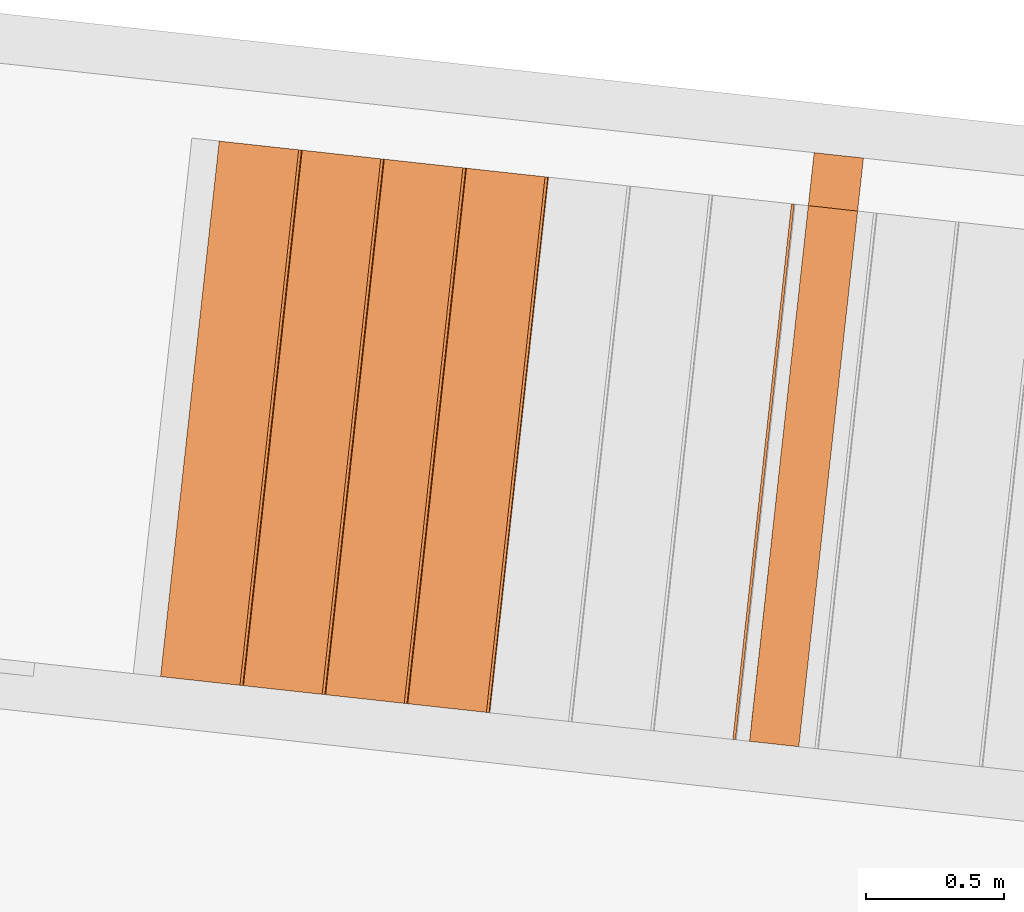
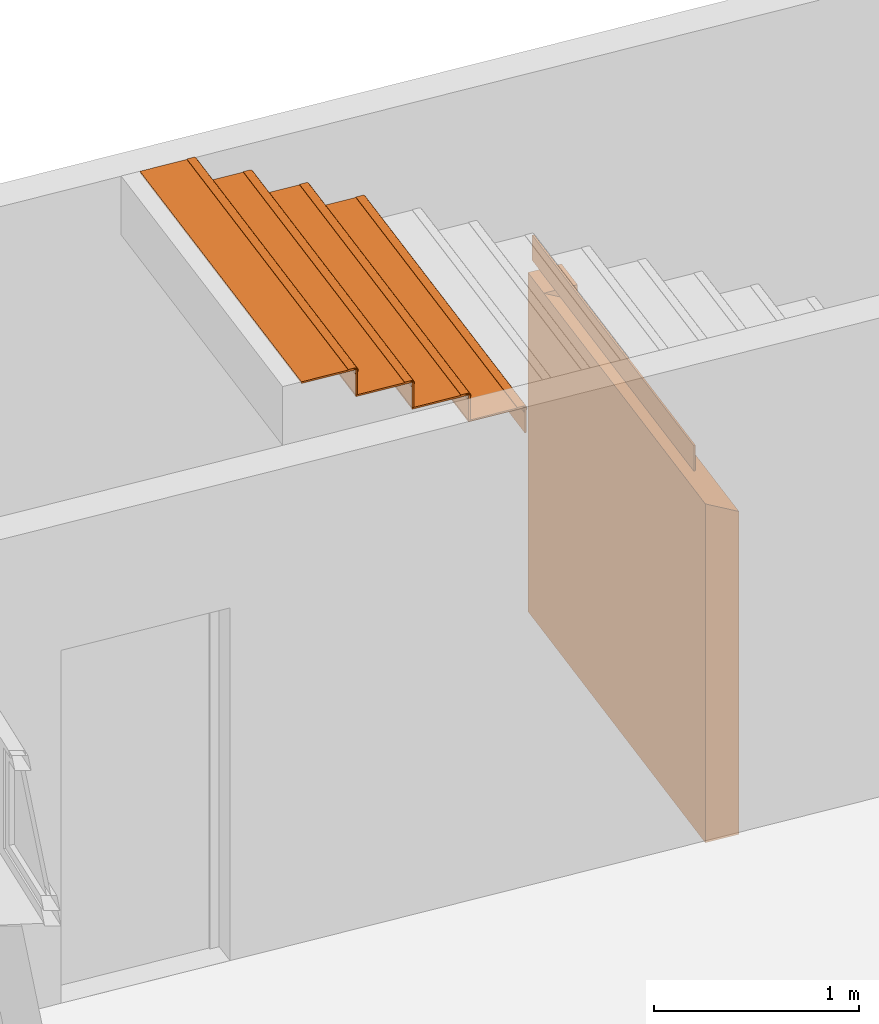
# One storey, part 73 of 79: 10 proxies, 1 element without a shape of its own.
"""IFC2X3 building model written with IfcOpenShell, lengths in metres."""

from ifc_helpers import new_model, entity, si_unit, converted_unit, derived_unit, money_unit, direction, frame, origin_with_axes, place, context, subcontext, project, spatial, faceted_brep, material, type_object, element, aggregate, save


model = new_model("IFC2X3")

# Units and contexts
model_context = context("Model", 3, precision=1e-05, world=origin_with_axes(), true_north=direction((0.0, 1.0)))
body_context = subcontext(model_context, "Body", "Model", "MODEL_VIEW")
ifc_project = project(units=[si_unit("LENGTHUNIT", "METRE"), si_unit("AREAUNIT", "SQUARE_METRE"), si_unit("VOLUMEUNIT", "CUBIC_METRE"), converted_unit("PLANEANGLEUNIT", "DEGREE", entity("IfcPlaneAngleMeasure", 0.0174532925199), si_unit("PLANEANGLEUNIT", "RADIAN"), dimensions=[0, 0, 0, 0, 0, 0, 0]), money_unit("CHF"), converted_unit("TIMEUNIT", "Year", entity("IfcTimeMeasure", 31556926.0), si_unit("TIMEUNIT", "SECOND"), dimensions=[0, 0, 1, 0, 0, 0, 0]), si_unit("MASSUNIT", "GRAM", prefix="KILO"), si_unit("THERMODYNAMICTEMPERATUREUNIT", "DEGREE_CELSIUS"), si_unit("LUMINOUSINTENSITYUNIT", "LUMEN"), si_unit("ENERGYUNIT", "JOULE", prefix="MEGA"), derived_unit("THERMALCONDUCTANCEUNIT", [(si_unit("POWERUNIT", "WATT"), 1), (si_unit("LENGTHUNIT", "METRE"), -1), (si_unit("THERMODYNAMICTEMPERATUREUNIT", "KELVIN"), -1)]), derived_unit("SPECIFICHEATCAPACITYUNIT", [(si_unit("ENERGYUNIT", "JOULE"), 1), (si_unit("MASSUNIT", "GRAM", prefix="KILO"), -1), (si_unit("THERMODYNAMICTEMPERATUREUNIT", "KELVIN"), -1)]), derived_unit("MASSDENSITYUNIT", [(si_unit("MASSUNIT", "GRAM", prefix="KILO"), 1), (si_unit("VOLUMEUNIT", "CUBIC_METRE"), -1)])], contexts=[model_context])

# Site, building, storey
site_placement = place(None, frame((0.0, 0.0, 0.0), z_axis=(0.0, 0.0, 1.0), x_axis=(-0.177771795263, -0.984071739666, 0.0)))
site = spatial("IfcSite", under=ifc_project, at=site_placement, Name="Site", CompositionType="ELEMENT")
building_placement = place(site_placement, origin_with_axes())
building = spatial("IfcBuilding", under=site, at=building_placement, Name="Bâtiment", CompositionType="ELEMENT")
storey_placement = place(building_placement, origin_with_axes())
storey = spatial("IfcBuildingStorey", under=building, at=storey_placement, Name="RDC", CompositionType="ELEMENT", Elevation=0.0)

# Proxy
ifc_material_1 = material(Name="_BA banché RAL9007")
building_element_proxy_type_1 = type_object("IfcBuildingElementProxyType", Name="_BA banché RAL9007 180", PredefinedType="NOTDEFINED")
proxy_1_placement = place(storey_placement, frame((99.9146645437, -154.589558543, -0.15), z_axis=(0.0, 0.0, 1.0), x_axis=(-0.997598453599, -0.0692627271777, 0.0)))
element("IfcBuildingElementProxy", 1, at=proxy_1_placement, inside=storey, type_object=building_element_proxy_type_1, material=ifc_material_1, Name="cloison rangt1", context=body_context, shape_type="Brep", body=[
    faceted_brep([(1.95643791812, 0.18, 2.01721448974), (1.95648810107, 0.0, 2.01721448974), (2.14999342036, 0.0, 2.01721448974), (2.14999318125, 0.18, 2.01721448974), (1.95648812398, 0.0, 1.92107624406), (1.95643793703, 0.18, 2.01707624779), (3.14007174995e-06, 1.96879998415e-10, 1.92136715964), (0.0, 0.0, 0.0), (2.14999342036, 0.0, 0.0), (2.14999318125, 0.18, 0.0), (2.05036998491e-09, 0.18, 0.0), (2.05036998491e-09, 0.18, 2.01721448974), (1.02672355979, 0.18, 2.01721448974), (2.90164562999e-06, 0.179713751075, 2.01721448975)], [[[0, 1, 2, 3]], [[4, 1, 0, 5]], [[6, 7, 8, 2, 1, 4]], [[8, 9, 3, 2]], [[5, 0, 3, 9, 10, 11, 12]], [[6, 4, 5, 12, 13]], [[13, 11, 10, 7, 6]], [[7, 10, 9, 8]], [[13, 12, 11]]]),
])

# Proxies
building_element_proxy_type_2 = type_object("IfcBuildingElementProxyType", Name="Type d'escalier", PredefinedType="NOTDEFINED")
proxy_2_placement = place(storey_placement, origin_with_axes())
proxy_2 = element("IfcBuildingElementProxy", 2, at=proxy_2_placement, inside=storey, type_object=building_element_proxy_type_2, Name="ESC-001")
ifc_material_2 = material(Name="Bois - Massif 01")
building_element_proxy_type_3 = type_object("IfcBuildingElementProxyType", Name="IfcBuildingElementProxy", PredefinedType="NOTDEFINED")
proxy_3_placement = place(proxy_2_placement, frame((98.9325070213, -154.889671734, 2.23), z_axis=(0.0, 0.0, 1.0), x_axis=(0.997579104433, 0.0695408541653, 0.0)))
proxy_3 = element("IfcBuildingElementProxy", 3, at=proxy_3_placement, type_object=building_element_proxy_type_3, material=ifc_material_2, Name="C-MARCHE-014", context=body_context, shape_type="Brep", body=[
    faceted_brep([(1.0005826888, 0.0, 0.0), (-0.955838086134, 0.0, 0.0), (-0.955838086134, -0.01, 0.0), (1.00057991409, -0.01, 0.0), (1.0005826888, 0.0, -0.15), (-0.955838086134, 0.0, -0.15), (-0.955838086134, -0.01, -0.15), (1.00057991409, -0.01, -0.15)], [[[0, 1, 2, 3]], [[4, 5, 1, 0]], [[1, 5, 6, 2]], [[3, 2, 6, 7]], [[0, 3, 7, 4]], [[7, 6, 5, 4]]]),
])
proxy_4_placement = place(proxy_2_placement, frame((98.9950937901, -155.787492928, 2.71), z_axis=(0.0, 0.0, 1.0), x_axis=(0.997579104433, 0.0695408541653, 0.0)))
proxy_4 = element("IfcBuildingElementProxy", 4, at=proxy_4_placement, type_object=building_element_proxy_type_3, material=ifc_material_2, Name="C-MARCHE-017", context=body_context, shape_type="Brep", body=[
    faceted_brep([(1.00033296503, 0.0, 0.0), (-0.955838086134, 0.0, 0.0), (-0.955838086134, -0.00999999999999, 0.0), (1.00033019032, -0.01, 0.0), (1.00033296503, 0.0, -0.15), (-0.955838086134, 0.0, -0.15), (-0.955838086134, -0.00999999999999, -0.15), (1.00033019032, -0.01, -0.15)], [[[0, 1, 2, 3]], [[4, 5, 1, 0]], [[1, 5, 6, 2]], [[3, 2, 6, 7]], [[0, 3, 7, 4]], [[7, 6, 5, 4]]]),
])
proxy_5_placement = place(proxy_2_placement, frame((99.0159560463, -156.08676666, 2.87), z_axis=(0.0, 0.0, 1.0), x_axis=(0.997579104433, 0.0695408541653, 0.0)))
proxy_5 = element("IfcBuildingElementProxy", 5, at=proxy_5_placement, type_object=building_element_proxy_type_3, material=ifc_material_2, Name="C-MARCHE-018", context=body_context, shape_type="Brep", body=[
    faceted_brep([(1.00024972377, 0.0, 0.0), (-0.955838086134, 0.0, 0.0), (-0.955838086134, -0.00999999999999, 0.0), (1.00024694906, -0.01, 0.0), (1.00024972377, 0.0, -0.15), (-0.955838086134, 0.0, -0.15), (-0.955838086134, -0.00999999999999, -0.15), (1.00024694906, -0.01, -0.15)], [[[0, 1, 2, 3]], [[4, 5, 1, 0]], [[1, 5, 6, 2]], [[3, 2, 6, 7]], [[0, 3, 7, 4]], [[7, 6, 5, 4]]]),
])
proxy_6_placement = place(proxy_2_placement, frame((99.0368183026, -156.386040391, 3.03), z_axis=(0.0, 0.0, 1.0), x_axis=(0.997579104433, 0.0695408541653, 0.0)))
proxy_6 = element("IfcBuildingElementProxy", 6, at=proxy_6_placement, type_object=building_element_proxy_type_3, material=ifc_material_2, Name="C-MARCHE-019", context=body_context, shape_type="Brep", body=[
    faceted_brep([(1.00016648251, 0.0, 0.0), (-0.955838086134, 0.0, 0.0), (-0.955838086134, -0.00999999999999, 0.0), (1.00016370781, -0.01, 0.0), (1.00016648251, 0.0, -0.15), (-0.955838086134, 0.0, -0.15), (-0.955838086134, -0.00999999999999, -0.15), (1.00016370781, -0.01, -0.15)], [[[0, 1, 2, 3]], [[4, 5, 1, 0]], [[1, 5, 6, 2]], [[3, 2, 6, 7]], [[0, 3, 7, 4]], [[7, 6, 5, 4]]]),
])
proxy_7_placement = place(proxy_2_placement, frame((99.0576805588, -156.685314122, 3.19), z_axis=(0.0, 0.0, 1.0), x_axis=(0.997579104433, 0.0695408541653, 0.0)))
proxy_7 = element("IfcBuildingElementProxy", 7, at=proxy_7_placement, type_object=building_element_proxy_type_3, material=ifc_material_2, Name="C-MARCHE-020", context=body_context, shape_type="Brep", body=[
    faceted_brep([(1.00008324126, 0.0, 0.0), (-0.955838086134, 0.0, 0.0), (-0.955838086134, -0.00999999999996, 0.0), (1.00008046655, -0.00999999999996, 0.0), (1.00008324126, 0.0, -0.15), (-0.955838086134, 0.0, -0.15), (-0.955838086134, -0.00999999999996, -0.15), (1.00008046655, -0.00999999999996, -0.15)], [[[0, 1, 2, 3]], [[4, 5, 1, 0]], [[1, 5, 6, 2]], [[3, 2, 6, 7]], [[0, 3, 7, 4]], [[7, 6, 5, 4]]]),
])
proxy_8_placement = place(proxy_2_placement, frame((98.9950937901, -155.787492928, 2.72), z_axis=(0.0, 0.0, 1.0), x_axis=(0.997579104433, 0.0695408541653, 0.0)))
proxy_8 = element("IfcBuildingElementProxy", 8, at=proxy_8_placement, type_object=building_element_proxy_type_3, material=ifc_material_2, Name="MARCHE-017", context=body_context, shape_type="Brep", body=[
    faceted_brep([(1.00032954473, -0.012326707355, -0.00589109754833), (1.00032880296, -0.015, -0.00401923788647), (1.00032748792, -0.0197393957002, -0.00180922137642), (1.00032608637, -0.02479055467, -0.00045576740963), (1.0003246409, -0.03, 0.0), (1.00024694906, -0.310000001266, 0.0), (1.00024694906, -0.310000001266, -0.01), (1.00033296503, 0.0, -0.01), (-0.955838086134, -0.012326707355, -0.00589109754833), (-0.955838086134, -0.015, -0.00401923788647), (-0.955838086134, -0.0197393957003, -0.00180922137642), (-0.955838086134, -0.02479055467, -0.00045576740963), (-0.955838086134, -0.03, 0.0), (-0.955838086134, -0.310000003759, 0.0), (-0.955838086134, -0.310000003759, -0.01), (-0.955838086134, 0.0, -0.01)], [[[0, 1, 2, 3, 4, 5, 6, 7]], [[0, 8, 9, 1]], [[1, 9, 10, 2]], [[2, 10, 11, 3]], [[3, 11, 12, 4]], [[5, 4, 12, 13]], [[13, 14, 6, 5]], [[7, 6, 14, 15]], [[7, 15, 8, 0]], [[12, 11, 10, 9, 8, 15, 14, 13]]]),
    faceted_brep([(-0.955838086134, -0.05, 0.0), (1.00033296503, -0.05, 0.0), (1.00033296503, -0.05, 0.003), (-0.955838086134, -0.05, 0.003), (-0.955838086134, -0.015, 0.0), (1.00033296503, -0.015, 0.0), (1.00033296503, -0.012395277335, -0.00022788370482), (1.00033296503, -0.00986969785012, -0.00090461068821), (1.00033296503, -0.00750000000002, -0.00200961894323), (1.00033296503, -0.00535818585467, -0.00350933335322), (1.00033296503, -0.00350933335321, -0.0053581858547), (1.00033296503, -0.00200961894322, -0.0075), (1.00033296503, -0.000904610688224, -0.00986969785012), (1.00033296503, -0.000227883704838, -0.012395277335), (1.00033296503, 0.0, -0.015), (1.00033296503, -0.000227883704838, -0.017604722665), (1.00033296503, -0.000904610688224, -0.0201303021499), (1.00033296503, -0.00200961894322, -0.0225), (1.00033296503, -0.00350933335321, -0.0246418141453), (1.00033296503, -0.00535818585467, -0.0264906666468), (1.00033296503, -0.00750000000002, -0.0279903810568), (1.00033296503, -0.00986969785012, -0.0290953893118), (1.00033296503, -0.012395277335, -0.0297721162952), (1.00033296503, -0.015, -0.03), (1.00033296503, -0.015, -0.033), (1.00033296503, -0.011874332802, -0.0327265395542), (1.00033296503, -0.00884363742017, -0.0319144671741), (1.00033296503, -0.006, -0.0305884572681), (1.00033296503, -0.00342982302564, -0.0287887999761), (1.00033296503, -0.00121120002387, -0.0265701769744), (1.00033296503, 0.000588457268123, -0.024), (1.00033296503, 0.00191446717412, -0.0211563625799), (1.00033296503, 0.00272653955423, -0.018125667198), (1.00033296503, 0.00299999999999, -0.015), (1.00033296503, 0.00272653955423, -0.011874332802), (1.00033296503, 0.00191446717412, -0.00884363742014), (1.00033296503, 0.000588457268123, -0.006), (1.00033296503, -0.00121120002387, -0.00342982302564), (1.00033296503, -0.00342982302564, -0.00121120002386), (1.00033296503, -0.006, 0.00058845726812), (1.00033296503, -0.00884363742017, 0.00191446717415), (1.00033296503, -0.011874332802, 0.00272653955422), (1.00033296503, -0.015, 0.003), (-0.955838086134, -0.015, 0.003), (-0.955838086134, -0.011874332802, 0.00272653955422), (-0.955838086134, -0.00884363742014, 0.00191446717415), (-0.955838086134, -0.00600000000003, 0.00058845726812), (-0.955838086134, -0.00342982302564, -0.00121120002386), (-0.955838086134, -0.00121120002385, -0.00342982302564), (-0.955838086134, 0.000588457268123, -0.006), (-0.955838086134, 0.00191446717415, -0.00884363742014), (-0.955838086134, 0.00272653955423, -0.011874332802), (-0.955838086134, 0.00300000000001, -0.015), (-0.955838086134, 0.00272653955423, -0.018125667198), (-0.955838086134, 0.00191446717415, -0.0211563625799), (-0.955838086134, 0.000588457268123, -0.024), (-0.955838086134, -0.00121120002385, -0.0265701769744), (-0.955838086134, -0.00342982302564, -0.0287887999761), (-0.955838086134, -0.00600000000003, -0.0305884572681), (-0.955838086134, -0.00884363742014, -0.0319144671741), (-0.955838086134, -0.011874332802, -0.0327265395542), (-0.955838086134, -0.015, -0.033), (-0.955838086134, -0.015, -0.03), (-0.955838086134, -0.012395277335, -0.0297721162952), (-0.955838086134, -0.00986969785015, -0.0290953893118), (-0.955838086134, -0.00750000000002, -0.0279903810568), (-0.955838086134, -0.00535818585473, -0.0264906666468), (-0.955838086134, -0.00350933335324, -0.0246418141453), (-0.955838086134, -0.00200961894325, -0.0225), (-0.955838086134, -0.000904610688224, -0.0201303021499), (-0.955838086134, -0.00022788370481, -0.017604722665), (-0.955838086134, 0.0, -0.015), (-0.955838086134, -0.00022788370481, -0.012395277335), (-0.955838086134, -0.000904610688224, -0.00986969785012), (-0.955838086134, -0.00200961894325, -0.0075), (-0.955838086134, -0.00350933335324, -0.0053581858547), (-0.955838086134, -0.00535818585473, -0.00350933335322), (-0.955838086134, -0.00750000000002, -0.00200961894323), (-0.955838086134, -0.00986969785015, -0.00090461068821), (-0.955838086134, -0.012395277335, -0.00022788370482)], [[[0, 1, 2, 3]], [[4, 5, 1, 0]], [[1, 5, 6, 7, 8, 9, 10, 11, 12, 13, 14, 15, 16, 17, 18, 19, 20, 21, 22, 23, 24, 25, 26, 27, 28, 29, 30, 31, 32, 33, 34, 35, 36, 37, 38, 39, 40, 41, 42, 2]], [[3, 2, 42, 43]], [[0, 3, 43, 44, 45, 46, 47, 48, 49, 50, 51, 52, 53, 54, 55, 56, 57, 58, 59, 60, 61, 62, 63, 64, 65, 66, 67, 68, 69, 70, 71, 72, 73, 74, 75, 76, 77, 78, 79, 4]], [[79, 6, 5, 4]], [[78, 7, 6, 79]], [[77, 8, 7, 78]], [[76, 9, 8, 77]], [[75, 10, 9, 76]], [[74, 11, 10, 75]], [[73, 12, 11, 74]], [[72, 13, 12, 73]], [[71, 14, 13, 72]], [[70, 15, 14, 71]], [[69, 16, 15, 70]], [[68, 17, 16, 69]], [[67, 18, 17, 68]], [[66, 19, 18, 67]], [[65, 20, 19, 66]], [[64, 21, 20, 65]], [[63, 22, 21, 64]], [[62, 23, 22, 63]], [[61, 24, 23, 62]], [[60, 25, 24, 61]], [[59, 26, 25, 60]], [[58, 27, 26, 59]], [[57, 28, 27, 58]], [[56, 29, 28, 57]], [[55, 30, 29, 56]], [[54, 31, 30, 55]], [[53, 32, 31, 54]], [[52, 33, 32, 53]], [[51, 34, 33, 52]], [[50, 35, 34, 51]], [[49, 36, 35, 50]], [[48, 37, 36, 49]], [[47, 38, 37, 48]], [[46, 39, 38, 47]], [[45, 40, 39, 46]], [[44, 41, 40, 45]], [[43, 42, 41, 44]]]),
])
proxy_9_placement = place(proxy_2_placement, frame((99.0159560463, -156.08676666, 2.88), z_axis=(0.0, 0.0, 1.0), x_axis=(0.997579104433, 0.0695408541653, 0.0)))
proxy_9 = element("IfcBuildingElementProxy", 9, at=proxy_9_placement, type_object=building_element_proxy_type_3, material=ifc_material_2, Name="MARCHE-018", context=body_context, shape_type="Brep", body=[
    faceted_brep([(1.00024630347, -0.012326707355, -0.00589109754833), (1.00024556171, -0.015, -0.00401923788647), (1.00024424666, -0.0197393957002, -0.00180922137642), (1.00024284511, -0.02479055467, -0.00045576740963), (1.00024139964, -0.03, 0.0), (1.00016370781, -0.30999999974, 0.0), (1.00016370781, -0.30999999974, -0.01), (1.00024972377, 0.0, -0.01), (-0.955838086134, -0.012326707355, -0.00589109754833), (-0.955838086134, -0.015, -0.00401923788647), (-0.955838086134, -0.0197393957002, -0.00180922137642), (-0.955838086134, -0.02479055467, -0.00045576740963), (-0.955838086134, -0.03, 0.0), (-0.955838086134, -0.310000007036, 0.0), (-0.955838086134, -0.310000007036, -0.01), (-0.955838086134, 0.0, -0.01)], [[[0, 1, 2, 3, 4, 5, 6, 7]], [[0, 8, 9, 1]], [[1, 9, 10, 2]], [[2, 10, 11, 3]], [[3, 11, 12, 4]], [[5, 4, 12, 13]], [[13, 14, 6, 5]], [[7, 6, 14, 15]], [[7, 15, 8, 0]], [[12, 11, 10, 9, 8, 15, 14, 13]]]),
    faceted_brep([(-0.955838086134, -0.05, 0.0), (1.00024972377, -0.05, 0.0), (1.00024972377, -0.05, 0.003), (-0.955838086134, -0.05, 0.003), (-0.955838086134, -0.015, 0.0), (1.00024972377, -0.015, 0.0), (1.00024972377, -0.012395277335, -0.00022788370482), (1.00024972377, -0.00986969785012, -0.00090461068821), (1.00024972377, -0.00750000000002, -0.00200961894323), (1.00024972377, -0.00535818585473, -0.00350933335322), (1.00024972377, -0.00350933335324, -0.0053581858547), (1.00024972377, -0.00200961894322, -0.0075), (1.00024972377, -0.000904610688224, -0.00986969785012), (1.00024972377, -0.00022788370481, -0.012395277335), (1.00024972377, 0.0, -0.015), (1.00024972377, -0.00022788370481, -0.017604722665), (1.00024972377, -0.000904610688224, -0.0201303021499), (1.00024972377, -0.00200961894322, -0.0225), (1.00024972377, -0.00350933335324, -0.0246418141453), (1.00024972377, -0.00535818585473, -0.0264906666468), (1.00024972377, -0.00750000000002, -0.0279903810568), (1.00024972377, -0.00986969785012, -0.0290953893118), (1.00024972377, -0.012395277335, -0.0297721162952), (1.00024972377, -0.015, -0.03), (1.00024972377, -0.015, -0.033), (1.00024972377, -0.011874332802, -0.0327265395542), (1.00024972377, -0.00884363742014, -0.0319144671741), (1.00024972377, -0.006, -0.0305884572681), (1.00024972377, -0.00342982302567, -0.0287887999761), (1.00024972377, -0.00121120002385, -0.0265701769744), (1.00024972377, 0.000588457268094, -0.024), (1.00024972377, 0.00191446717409, -0.0211563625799), (1.00024972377, 0.0027265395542, -0.018125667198), (1.00024972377, 0.00299999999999, -0.015), (1.00024972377, 0.0027265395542, -0.011874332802), (1.00024972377, 0.00191446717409, -0.00884363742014), (1.00024972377, 0.000588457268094, -0.006), (1.00024972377, -0.00121120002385, -0.00342982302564), (1.00024972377, -0.00342982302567, -0.00121120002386), (1.00024972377, -0.006, 0.00058845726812), (1.00024972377, -0.00884363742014, 0.00191446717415), (1.00024972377, -0.011874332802, 0.00272653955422), (1.00024972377, -0.015, 0.003), (-0.955838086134, -0.015, 0.003), (-0.955838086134, -0.011874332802, 0.00272653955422), (-0.955838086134, -0.0088436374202, 0.00191446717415), (-0.955838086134, -0.00600000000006, 0.00058845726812), (-0.955838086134, -0.00342982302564, -0.00121120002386), (-0.955838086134, -0.00121120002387, -0.00342982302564), (-0.955838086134, 0.000588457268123, -0.006), (-0.955838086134, 0.00191446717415, -0.00884363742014), (-0.955838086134, 0.00272653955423, -0.011874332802), (-0.955838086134, 0.00299999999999, -0.015), (-0.955838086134, 0.00272653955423, -0.018125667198), (-0.955838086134, 0.00191446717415, -0.0211563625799), (-0.955838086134, 0.000588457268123, -0.024), (-0.955838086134, -0.00121120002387, -0.0265701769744), (-0.955838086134, -0.00342982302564, -0.0287887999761), (-0.955838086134, -0.00600000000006, -0.0305884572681), (-0.955838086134, -0.0088436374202, -0.0319144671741), (-0.955838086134, -0.011874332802, -0.0327265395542), (-0.955838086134, -0.015, -0.033), (-0.955838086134, -0.015, -0.03), (-0.955838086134, -0.012395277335, -0.0297721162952), (-0.955838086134, -0.00986969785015, -0.0290953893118), (-0.955838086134, -0.00750000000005, -0.0279903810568), (-0.955838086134, -0.0053581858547, -0.0264906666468), (-0.955838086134, -0.00350933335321, -0.0246418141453), (-0.955838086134, -0.00200961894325, -0.0225), (-0.955838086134, -0.000904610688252, -0.0201303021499), (-0.955838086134, -0.000227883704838, -0.017604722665), (-0.955838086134, 0.0, -0.015), (-0.955838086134, -0.000227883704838, -0.012395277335), (-0.955838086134, -0.000904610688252, -0.00986969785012), (-0.955838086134, -0.00200961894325, -0.0075), (-0.955838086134, -0.00350933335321, -0.0053581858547), (-0.955838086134, -0.0053581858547, -0.00350933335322), (-0.955838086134, -0.00750000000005, -0.00200961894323), (-0.955838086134, -0.00986969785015, -0.00090461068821), (-0.955838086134, -0.012395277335, -0.00022788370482)], [[[0, 1, 2, 3]], [[4, 5, 1, 0]], [[1, 5, 6, 7, 8, 9, 10, 11, 12, 13, 14, 15, 16, 17, 18, 19, 20, 21, 22, 23, 24, 25, 26, 27, 28, 29, 30, 31, 32, 33, 34, 35, 36, 37, 38, 39, 40, 41, 42, 2]], [[3, 2, 42, 43]], [[0, 3, 43, 44, 45, 46, 47, 48, 49, 50, 51, 52, 53, 54, 55, 56, 57, 58, 59, 60, 61, 62, 63, 64, 65, 66, 67, 68, 69, 70, 71, 72, 73, 74, 75, 76, 77, 78, 79, 4]], [[79, 6, 5, 4]], [[78, 7, 6, 79]], [[77, 8, 7, 78]], [[76, 9, 8, 77]], [[75, 10, 9, 76]], [[74, 11, 10, 75]], [[73, 12, 11, 74]], [[72, 13, 12, 73]], [[71, 14, 13, 72]], [[70, 15, 14, 71]], [[69, 16, 15, 70]], [[68, 17, 16, 69]], [[67, 18, 17, 68]], [[66, 19, 18, 67]], [[65, 20, 19, 66]], [[64, 21, 20, 65]], [[63, 22, 21, 64]], [[62, 23, 22, 63]], [[61, 24, 23, 62]], [[60, 25, 24, 61]], [[59, 26, 25, 60]], [[58, 27, 26, 59]], [[57, 28, 27, 58]], [[56, 29, 28, 57]], [[55, 30, 29, 56]], [[54, 31, 30, 55]], [[53, 32, 31, 54]], [[52, 33, 32, 53]], [[51, 34, 33, 52]], [[50, 35, 34, 51]], [[49, 36, 35, 50]], [[48, 37, 36, 49]], [[47, 38, 37, 48]], [[46, 39, 38, 47]], [[45, 40, 39, 46]], [[44, 41, 40, 45]], [[43, 42, 41, 44]]]),
])
proxy_10_placement = place(proxy_2_placement, frame((99.0368183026, -156.386040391, 3.04), z_axis=(0.0, 0.0, 1.0), x_axis=(0.997579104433, 0.0695408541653, 0.0)))
proxy_10 = element("IfcBuildingElementProxy", 10, at=proxy_10_placement, type_object=building_element_proxy_type_3, material=ifc_material_2, Name="MARCHE-019", context=body_context, shape_type="Brep", body=[
    faceted_brep([(1.00016306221, -0.012326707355, -0.00589109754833), (1.00016232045, -0.015, -0.00401923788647), (1.00016100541, -0.0197393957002, -0.00180922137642), (1.00015960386, -0.02479055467, -0.00045576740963), (1.00015815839, -0.03, 0.0), (1.00008046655, -0.310000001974, 0.0), (1.00008046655, -0.310000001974, -0.01), (1.00016648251, 0.0, -0.01), (-0.955838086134, -0.012326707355, -0.00589109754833), (-0.955838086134, -0.015, -0.00401923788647), (-0.955838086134, -0.0197393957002, -0.00180922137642), (-0.955838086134, -0.02479055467, -0.00045576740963), (-0.955838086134, -0.03, 0.0), (-0.955838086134, -0.310000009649, 0.0), (-0.955838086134, -0.310000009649, -0.01), (-0.955838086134, 0.0, -0.01)], [[[0, 1, 2, 3, 4, 5, 6, 7]], [[0, 8, 9, 1]], [[1, 9, 10, 2]], [[2, 10, 11, 3]], [[3, 11, 12, 4]], [[5, 4, 12, 13]], [[13, 14, 6, 5]], [[7, 6, 14, 15]], [[7, 15, 8, 0]], [[12, 11, 10, 9, 8, 15, 14, 13]]]),
    faceted_brep([(-0.955838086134, -0.05, 0.0), (1.00016648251, -0.05, 0.0), (1.00016648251, -0.05, 0.003), (-0.955838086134, -0.05, 0.003), (-0.955838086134, -0.015, 0.0), (1.00016648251, -0.015, 0.0), (1.00016648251, -0.012395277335, -0.00022788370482), (1.00016648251, -0.00986969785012, -0.00090461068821), (1.00016648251, -0.00749999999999, -0.00200961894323), (1.00016648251, -0.0053581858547, -0.00350933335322), (1.00016648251, -0.00350933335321, -0.0053581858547), (1.00016648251, -0.00200961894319, -0.0075), (1.00016648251, -0.000904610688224, -0.00986969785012), (1.00016648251, -0.000227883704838, -0.012395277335), (1.00016648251, 0.0, -0.015), (1.00016648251, -0.000227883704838, -0.017604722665), (1.00016648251, -0.000904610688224, -0.0201303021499), (1.00016648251, -0.00200961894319, -0.0225), (1.00016648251, -0.00350933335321, -0.0246418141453), (1.00016648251, -0.0053581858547, -0.0264906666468), (1.00016648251, -0.00749999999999, -0.0279903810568), (1.00016648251, -0.00986969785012, -0.0290953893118), (1.00016648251, -0.012395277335, -0.0297721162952), (1.00016648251, -0.015, -0.03), (1.00016648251, -0.015, -0.033), (1.00016648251, -0.011874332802, -0.0327265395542), (1.00016648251, -0.00884363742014, -0.0319144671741), (1.00016648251, -0.006, -0.0305884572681), (1.00016648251, -0.00342982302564, -0.0287887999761), (1.00016648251, -0.00121120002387, -0.0265701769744), (1.00016648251, 0.000588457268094, -0.024), (1.00016648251, 0.00191446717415, -0.0211563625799), (1.00016648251, 0.00272653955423, -0.018125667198), (1.00016648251, 0.00299999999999, -0.015), (1.00016648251, 0.00272653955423, -0.011874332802), (1.00016648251, 0.00191446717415, -0.00884363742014), (1.00016648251, 0.000588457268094, -0.006), (1.00016648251, -0.00121120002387, -0.00342982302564), (1.00016648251, -0.00342982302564, -0.00121120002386), (1.00016648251, -0.006, 0.00058845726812), (1.00016648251, -0.00884363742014, 0.00191446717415), (1.00016648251, -0.011874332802, 0.00272653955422), (1.00016648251, -0.015, 0.003), (-0.955838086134, -0.015, 0.003), (-0.955838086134, -0.011874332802, 0.00272653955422), (-0.955838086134, -0.00884363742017, 0.00191446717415), (-0.955838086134, -0.00600000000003, 0.00058845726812), (-0.955838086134, -0.00342982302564, -0.00121120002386), (-0.955838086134, -0.00121120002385, -0.00342982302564), (-0.955838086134, 0.000588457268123, -0.006), (-0.955838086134, 0.00191446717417, -0.00884363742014), (-0.955838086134, 0.00272653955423, -0.011874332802), (-0.955838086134, 0.00300000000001, -0.015), (-0.955838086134, 0.00272653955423, -0.018125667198), (-0.955838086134, 0.00191446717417, -0.0211563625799), (-0.955838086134, 0.000588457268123, -0.024), (-0.955838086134, -0.00121120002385, -0.0265701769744), (-0.955838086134, -0.00342982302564, -0.0287887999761), (-0.955838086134, -0.00600000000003, -0.0305884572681), (-0.955838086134, -0.00884363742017, -0.0319144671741), (-0.955838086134, -0.011874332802, -0.0327265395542), (-0.955838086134, -0.015, -0.033), (-0.955838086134, -0.015, -0.03), (-0.955838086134, -0.012395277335, -0.0297721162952), (-0.955838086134, -0.00986969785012, -0.0290953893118), (-0.955838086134, -0.00749999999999, -0.0279903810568), (-0.955838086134, -0.0053581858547, -0.0264906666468), (-0.955838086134, -0.00350933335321, -0.0246418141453), (-0.955838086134, -0.00200961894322, -0.0225), (-0.955838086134, -0.000904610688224, -0.0201303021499), (-0.955838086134, -0.00022788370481, -0.017604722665), (-0.955838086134, 0.0, -0.015), (-0.955838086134, -0.00022788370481, -0.012395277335), (-0.955838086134, -0.000904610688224, -0.00986969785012), (-0.955838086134, -0.00200961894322, -0.0075), (-0.955838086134, -0.00350933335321, -0.0053581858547), (-0.955838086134, -0.0053581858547, -0.00350933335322), (-0.955838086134, -0.00749999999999, -0.00200961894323), (-0.955838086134, -0.00986969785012, -0.00090461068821), (-0.955838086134, -0.012395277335, -0.00022788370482)], [[[0, 1, 2, 3]], [[4, 5, 1, 0]], [[1, 5, 6, 7, 8, 9, 10, 11, 12, 13, 14, 15, 16, 17, 18, 19, 20, 21, 22, 23, 24, 25, 26, 27, 28, 29, 30, 31, 32, 33, 34, 35, 36, 37, 38, 39, 40, 41, 42, 2]], [[3, 2, 42, 43]], [[0, 3, 43, 44, 45, 46, 47, 48, 49, 50, 51, 52, 53, 54, 55, 56, 57, 58, 59, 60, 61, 62, 63, 64, 65, 66, 67, 68, 69, 70, 71, 72, 73, 74, 75, 76, 77, 78, 79, 4]], [[79, 6, 5, 4]], [[78, 7, 6, 79]], [[77, 8, 7, 78]], [[76, 9, 8, 77]], [[75, 10, 9, 76]], [[74, 11, 10, 75]], [[73, 12, 11, 74]], [[72, 13, 12, 73]], [[71, 14, 13, 72]], [[70, 15, 14, 71]], [[69, 16, 15, 70]], [[68, 17, 16, 69]], [[67, 18, 17, 68]], [[66, 19, 18, 67]], [[65, 20, 19, 66]], [[64, 21, 20, 65]], [[63, 22, 21, 64]], [[62, 23, 22, 63]], [[61, 24, 23, 62]], [[60, 25, 24, 61]], [[59, 26, 25, 60]], [[58, 27, 26, 59]], [[57, 28, 27, 58]], [[56, 29, 28, 57]], [[55, 30, 29, 56]], [[54, 31, 30, 55]], [[53, 32, 31, 54]], [[52, 33, 32, 53]], [[51, 34, 33, 52]], [[50, 35, 34, 51]], [[49, 36, 35, 50]], [[48, 37, 36, 49]], [[47, 38, 37, 48]], [[46, 39, 38, 47]], [[45, 40, 39, 46]], [[44, 41, 40, 45]], [[43, 42, 41, 44]]]),
])
proxy_11_placement = place(proxy_2_placement, frame((99.0576805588, -156.685314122, 3.2), z_axis=(0.0, 0.0, 1.0), x_axis=(0.997579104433, 0.0695408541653, 0.0)))
proxy_11 = element("IfcBuildingElementProxy", 11, at=proxy_11_placement, type_object=building_element_proxy_type_3, material=ifc_material_2, Name="MARCHE-020", context=body_context, shape_type="Brep", body=[
    faceted_brep([(1.00007982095, -0.012326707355, -0.00589109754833), (1.00007907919, -0.015, -0.00401923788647), (1.00007776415, -0.0197393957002, -0.00180922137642), (1.0000763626, -0.02479055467, -0.00045576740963), (1.00007491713, -0.03, 0.0), (1.0, -0.3, 0.0), (1.0, -0.3, -0.01), (1.00008324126, 0.0, -0.01), (-0.955838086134, -0.012326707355, -0.00589109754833), (-0.955838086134, -0.015, -0.00401923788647), (-0.955838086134, -0.0197393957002, -0.00180922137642), (-0.955838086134, -0.02479055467, -0.00045576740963), (-0.955838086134, -0.03, 0.0), (-0.955838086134, -0.3, 0.0), (-0.955838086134, -0.3, -0.01), (-0.955838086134, 0.0, -0.01)], [[[0, 1, 2, 3, 4, 5, 6, 7]], [[0, 8, 9, 1]], [[1, 9, 10, 2]], [[2, 10, 11, 3]], [[3, 11, 12, 4]], [[5, 4, 12, 13]], [[13, 14, 6, 5]], [[7, 6, 14, 15]], [[7, 15, 8, 0]], [[12, 11, 10, 9, 8, 15, 14, 13]]]),
    faceted_brep([(-0.955838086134, -0.05, 0.0), (1.00008324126, -0.05, 0.0), (1.00008324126, -0.05, 0.003), (-0.955838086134, -0.05, 0.003), (-0.955838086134, -0.015, 0.0), (1.00008324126, -0.015, 0.0), (1.00008324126, -0.012395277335, -0.00022788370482), (1.00008324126, -0.00986969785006, -0.00090461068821), (1.00008324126, -0.00749999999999, -0.00200961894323), (1.00008324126, -0.00535818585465, -0.00350933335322), (1.00008324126, -0.00350933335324, -0.0053581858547), (1.00008324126, -0.00200961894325, -0.0075), (1.00008324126, -0.000904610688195, -0.00986969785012), (1.00008324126, -0.000227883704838, -0.012395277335), (1.00008324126, 0.0, -0.015), (1.00008324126, -0.000227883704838, -0.017604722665), (1.00008324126, -0.000904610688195, -0.0201303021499), (1.00008324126, -0.00200961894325, -0.0225), (1.00008324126, -0.00350933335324, -0.0246418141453), (1.00008324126, -0.00535818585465, -0.0264906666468), (1.00008324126, -0.00749999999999, -0.0279903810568), (1.00008324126, -0.00986969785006, -0.0290953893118), (1.00008324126, -0.012395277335, -0.0297721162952), (1.00008324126, -0.015, -0.03), (1.00008324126, -0.015, -0.033), (1.00008324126, -0.011874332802, -0.0327265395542), (1.00008324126, -0.00884363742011, -0.0319144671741), (1.00008324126, -0.006, -0.0305884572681), (1.00008324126, -0.00342982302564, -0.0287887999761), (1.00008324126, -0.00121120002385, -0.0265701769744), (1.00008324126, 0.000588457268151, -0.024), (1.00008324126, 0.00191446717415, -0.0211563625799), (1.00008324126, 0.00272653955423, -0.018125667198), (1.00008324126, 0.00300000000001, -0.015), (1.00008324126, 0.00272653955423, -0.011874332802), (1.00008324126, 0.00191446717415, -0.00884363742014), (1.00008324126, 0.000588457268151, -0.006), (1.00008324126, -0.00121120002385, -0.00342982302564), (1.00008324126, -0.00342982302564, -0.00121120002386), (1.00008324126, -0.006, 0.00058845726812), (1.00008324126, -0.00884363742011, 0.00191446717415), (1.00008324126, -0.011874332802, 0.00272653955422), (1.00008324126, -0.015, 0.003), (-0.955838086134, -0.015, 0.003), (-0.955838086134, -0.011874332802, 0.00272653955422), (-0.955838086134, -0.00884363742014, 0.00191446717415), (-0.955838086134, -0.00599999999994, 0.00058845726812), (-0.955838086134, -0.00342982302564, -0.00121120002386), (-0.955838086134, -0.00121120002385, -0.00342982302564), (-0.955838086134, 0.000588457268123, -0.006), (-0.955838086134, 0.00191446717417, -0.00884363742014), (-0.955838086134, 0.00272653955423, -0.011874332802), (-0.955838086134, 0.00299999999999, -0.015), (-0.955838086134, 0.00272653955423, -0.018125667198), (-0.955838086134, 0.00191446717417, -0.0211563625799), (-0.955838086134, 0.000588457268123, -0.024), (-0.955838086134, -0.00121120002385, -0.0265701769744), (-0.955838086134, -0.00342982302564, -0.0287887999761), (-0.955838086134, -0.00599999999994, -0.0305884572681), (-0.955838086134, -0.00884363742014, -0.0319144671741), (-0.955838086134, -0.011874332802, -0.0327265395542), (-0.955838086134, -0.015, -0.033), (-0.955838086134, -0.015, -0.03), (-0.955838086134, -0.012395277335, -0.0297721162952), (-0.955838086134, -0.00986969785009, -0.0290953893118), (-0.955838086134, -0.00749999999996, -0.0279903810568), (-0.955838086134, -0.00535818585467, -0.0264906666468), (-0.955838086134, -0.00350933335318, -0.0246418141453), (-0.955838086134, -0.00200961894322, -0.0225), (-0.955838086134, -0.000904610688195, -0.0201303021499), (-0.955838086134, -0.00022788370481, -0.017604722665), (-0.955838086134, 0.0, -0.015), (-0.955838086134, -0.00022788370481, -0.012395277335), (-0.955838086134, -0.000904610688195, -0.00986969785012), (-0.955838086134, -0.00200961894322, -0.0075), (-0.955838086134, -0.00350933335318, -0.0053581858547), (-0.955838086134, -0.00535818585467, -0.00350933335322), (-0.955838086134, -0.00749999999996, -0.00200961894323), (-0.955838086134, -0.00986969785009, -0.00090461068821), (-0.955838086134, -0.012395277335, -0.00022788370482)], [[[0, 1, 2, 3]], [[4, 5, 1, 0]], [[1, 5, 6, 7, 8, 9, 10, 11, 12, 13, 14, 15, 16, 17, 18, 19, 20, 21, 22, 23, 24, 25, 26, 27, 28, 29, 30, 31, 32, 33, 34, 35, 36, 37, 38, 39, 40, 41, 42, 2]], [[3, 2, 42, 43]], [[0, 3, 43, 44, 45, 46, 47, 48, 49, 50, 51, 52, 53, 54, 55, 56, 57, 58, 59, 60, 61, 62, 63, 64, 65, 66, 67, 68, 69, 70, 71, 72, 73, 74, 75, 76, 77, 78, 79, 4]], [[79, 6, 5, 4]], [[78, 7, 6, 79]], [[77, 8, 7, 78]], [[76, 9, 8, 77]], [[75, 10, 9, 76]], [[74, 11, 10, 75]], [[73, 12, 11, 74]], [[72, 13, 12, 73]], [[71, 14, 13, 72]], [[70, 15, 14, 71]], [[69, 16, 15, 70]], [[68, 17, 16, 69]], [[67, 18, 17, 68]], [[66, 19, 18, 67]], [[65, 20, 19, 66]], [[64, 21, 20, 65]], [[63, 22, 21, 64]], [[62, 23, 22, 63]], [[61, 24, 23, 62]], [[60, 25, 24, 61]], [[59, 26, 25, 60]], [[58, 27, 26, 59]], [[57, 28, 27, 58]], [[56, 29, 28, 57]], [[55, 30, 29, 56]], [[54, 31, 30, 55]], [[53, 32, 31, 54]], [[52, 33, 32, 53]], [[51, 34, 33, 52]], [[50, 35, 34, 51]], [[49, 36, 35, 50]], [[48, 37, 36, 49]], [[47, 38, 37, 48]], [[46, 39, 38, 47]], [[45, 40, 39, 46]], [[44, 41, 40, 45]], [[43, 42, 41, 44]]]),
])
aggregate(proxy_2, [proxy_3, proxy_4, proxy_5, proxy_6, proxy_7, proxy_8, proxy_9, proxy_10, proxy_11])

save(model, "model.ifc")
